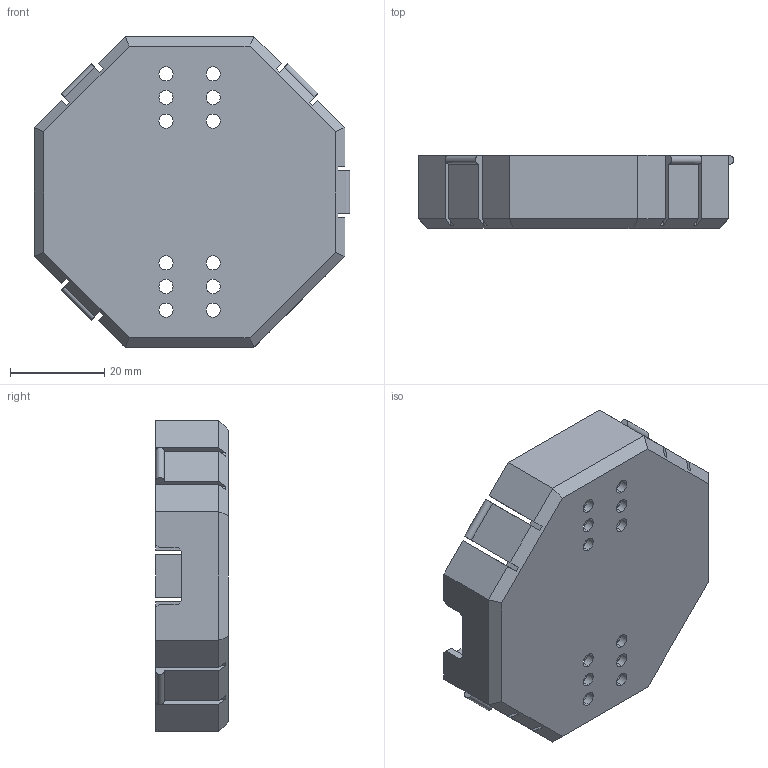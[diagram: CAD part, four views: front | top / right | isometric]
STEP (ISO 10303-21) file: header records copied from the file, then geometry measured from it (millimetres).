
FILE_DESCRIPTION(('FreeCAD Model'),'2;1');
FILE_NAME('D:/2015 new/openBCI/M3 Cad/M3K parts/Board Holder_Bottom.STP' ,'2015-11-05T13:34:41',('FreeCAD'),('FreeCAD'), 'Open CASCADE STEP processor 6.3','FreeCAD','Unknown');
FILE_SCHEMA(('AUTOMOTIVE_DESIGN_CC2 { 1 2 10303 214 -1 1 5 4 }'));
Length unit declared in the file: millimetre
Products named in the file (1): Board_Holder_Bottom
Bounding box: 66.78 x 15.35 x 65.77 mm (x, y, z)
Volume: 16683 mm3; surface area: 13391.5 mm2
Topology: 1 solids, 1 shells, 208 faces, 566 edges, 368 vertices
Faces by surface type: plane 128, cylinder 44, cone 20, bspline 16
Entity records: 17403 total; most frequent: CARTESIAN_POINT 6857, DIRECTION 1716, ORIENTED_EDGE 1132, PCURVE 1132, DEFINITIONAL_REPRESENTATION 1132, LINE 1026, VECTOR 1026, EDGE_CURVE 566
